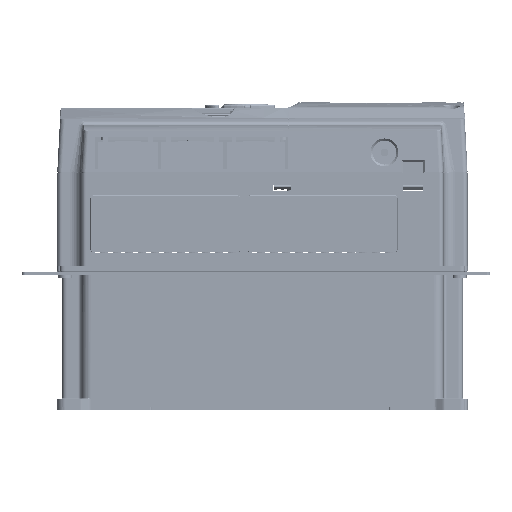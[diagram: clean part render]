
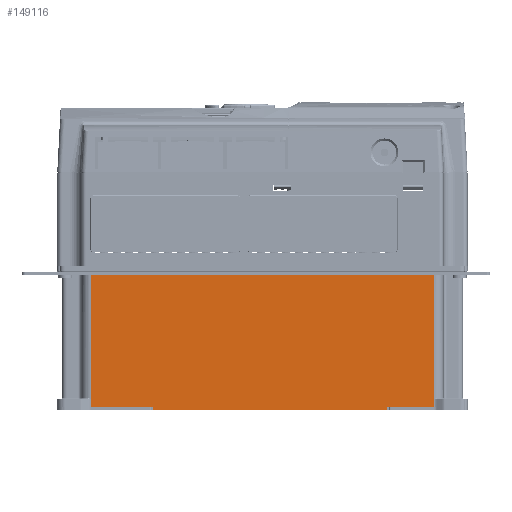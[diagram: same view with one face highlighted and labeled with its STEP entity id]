
A CAD part, left-side view. The second image highlights one B-rep face of the part: STEP entity #149116.
In plain terms, the highlighted planar face has unit normal (-1, 0, 0) as drawn and (1, 0, 0) by its records, which use the part's own axes.
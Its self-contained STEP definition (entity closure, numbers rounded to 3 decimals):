
#119046=DIRECTION('',(0.,0.,-1.));
#119047=VECTOR('',#119046,146.);
#119048=CARTESIAN_POINT('',(70.,-80.,68.));
#119049=LINE('',#119048,#119047);
#120293=CARTESIAN_POINT('',(70.,-73.,108.657));
#120295=DIRECTION('',(-0.001,0.,-1.));
#120296=VECTOR('',#120295,1.493);
#120297=CARTESIAN_POINT('',(70.,-73.,108.657));
#120298=LINE('',#120297,#120296);
#120306=DIRECTION('',(-0.001,0.,1.));
#120307=VECTOR('',#120306,1.493);
#120308=CARTESIAN_POINT('',(70.,-73.,-108.657));
#120309=LINE('',#120308,#120307);
#125391=DIRECTION('',(0.,0.,-1.));
#125392=VECTOR('',#125391,39.169);
#125393=CARTESIAN_POINT('',(70.,-78.5,107.169));
#125394=LINE('',#125393,#125392);
#125395=DIRECTION('',(0.,1.,0.));
#125396=VECTOR('',#125395,5.);
#125397=CARTESIAN_POINT('',(70.,-78.5,107.169));
#125398=LINE('',#125397,#125396);
#125399=CARTESIAN_POINT('',(70.,-73.405,
107.403));
#125400=CARTESIAN_POINT('',(70.,-73.373,
107.481));
#125401=CARTESIAN_POINT('',(70.,-73.298,
107.663));
#125402=CARTESIAN_POINT('',(70.,-73.201,
107.913));
#125403=CARTESIAN_POINT('',(70.,-73.116,
108.162));
#125404=CARTESIAN_POINT('',(70.,-73.046,
108.408));
#125405=CARTESIAN_POINT('',(70.,-73.013,108.574));
#125406=CARTESIAN_POINT('',(70.,-73.,108.657));
#125408=DIRECTION('',(0.,-1.,0.));
#125409=VECTOR('',#125408,79.);
#125410=CARTESIAN_POINT('',(70.,6.,107.));
#125411=LINE('',#125410,#125409);
#125412=DIRECTION('',(0.,0.,-1.));
#125413=VECTOR('',#125412,214.);
#125414=CARTESIAN_POINT('',(70.,6.,107.));
#125415=LINE('',#125414,#125413);
#125416=DIRECTION('',(0.,1.,0.));
#125417=VECTOR('',#125416,79.);
#125418=CARTESIAN_POINT('',(70.,-73.,-107.));
#125419=LINE('',#125418,#125417);
#125420=CARTESIAN_POINT('',(70.,-73.408,
-107.395));
#125421=CARTESIAN_POINT('',(70.,-73.366,
-107.478));
#125422=CARTESIAN_POINT('',(70.,-73.303,
-107.663));
#125423=CARTESIAN_POINT('',(70.,-73.183,
-107.953));
#125424=CARTESIAN_POINT('',(70.,-73.078,
-108.281));
#125425=CARTESIAN_POINT('',(70.,-73.02,-108.527));
#125426=CARTESIAN_POINT('',(70.,-73.,-108.657));
#125428=DIRECTION('',(0.,-1.,0.));
#125429=VECTOR('',#125428,5.);
#125430=CARTESIAN_POINT('',(70.,-73.5,-107.169));
#125431=LINE('',#125430,#125429);
#125432=DIRECTION('',(0.,0.,-1.));
#125433=VECTOR('',#125432,29.169);
#125434=CARTESIAN_POINT('',(70.,-78.5,-78.));
#125435=LINE('',#125434,#125433);
#125436=DIRECTION('',(0.,1.,0.));
#125437=VECTOR('',#125436,1.5);
#125438=CARTESIAN_POINT('',(70.,-80.,-78.));
#125439=LINE('',#125438,#125437);
#125440=DIRECTION('',(0.,1.,0.));
#125441=VECTOR('',#125440,1.5);
#125442=CARTESIAN_POINT('',(70.,-80.,68.));
#125443=LINE('',#125442,#125441);
#134613=CARTESIAN_POINT('',(70.,-73.,107.));
#134614=CARTESIAN_POINT('',(70.,-73.,107.028));
#134615=CARTESIAN_POINT('',(70.001,-73.,107.087));
#134616=CARTESIAN_POINT('',(69.999,-73.,107.136));
#134617=CARTESIAN_POINT('',(69.999,-73.,107.164));
#134650=CARTESIAN_POINT('',(70.,-73.405,
107.403));
#134662=CARTESIAN_POINT('',(70.,-73.405,
107.403));
#134663=CARTESIAN_POINT('',(70.,-73.422,
107.36));
#134664=CARTESIAN_POINT('',(70.,-73.447,
107.298));
#134665=CARTESIAN_POINT('',(70.,-73.484,107.209));
#134666=CARTESIAN_POINT('',(70.,-73.5,107.169));
#134762=CARTESIAN_POINT('',(69.999,-73.,-107.164));
#134763=CARTESIAN_POINT('',(69.999,-73.,-107.136));
#134764=CARTESIAN_POINT('',(70.001,-73.,-107.087));
#134765=CARTESIAN_POINT('',(70.,-73.,-107.028));
#134766=CARTESIAN_POINT('',(70.,-73.,-107.));
#134974=CARTESIAN_POINT('',(70.,-73.408,
-107.395));
#134981=CARTESIAN_POINT('',(70.,-73.5,-107.169));
#134982=CARTESIAN_POINT('',(70.,-73.484,-107.207));
#134983=CARTESIAN_POINT('',(70.,-73.453,
-107.283));
#134984=CARTESIAN_POINT('',(70.,-73.423,
-107.358));
#134985=CARTESIAN_POINT('',(70.,-73.408,
-107.395));
#137439=CARTESIAN_POINT('',(70.,-80.,68.));
#137441=VERTEX_POINT('',#137439);
#137455=CARTESIAN_POINT('',(70.,-80.,-78.));
#137457=VERTEX_POINT('',#137455);
#137466=CARTESIAN_POINT('',(70.,-78.5,107.169));
#137467=CARTESIAN_POINT('',(70.,-78.5,68.));
#137468=VERTEX_POINT('',#137466);
#137469=VERTEX_POINT('',#137467);
#137470=CARTESIAN_POINT('',(70.,-78.5,-78.));
#137471=CARTESIAN_POINT('',(70.,-78.5,-107.169));
#137472=VERTEX_POINT('',#137470);
#137473=VERTEX_POINT('',#137471);
#137878=CARTESIAN_POINT('',(70.,6.,107.));
#137879=CARTESIAN_POINT('',(70.,-73.,107.));
#137880=VERTEX_POINT('',#137878);
#137881=VERTEX_POINT('',#137879);
#137882=CARTESIAN_POINT('',(70.,-73.,-107.));
#137883=CARTESIAN_POINT('',(70.,6.,-107.));
#137884=VERTEX_POINT('',#137882);
#137885=VERTEX_POINT('',#137883);
#137963=CARTESIAN_POINT('',(70.,-73.5,-107.169));
#137965=VERTEX_POINT('',#137963);
#138088=CARTESIAN_POINT('',(70.,-73.5,107.169));
#138089=VERTEX_POINT('',#138088);
#138092=VERTEX_POINT('',#134617);
#138093=VERTEX_POINT('',#134762);
#138160=VERTEX_POINT('',#120293);
#138161=VERTEX_POINT('',#134650);
#138163=VERTEX_POINT('',#134974);
#138164=VERTEX_POINT('',#125426);
#149081=CARTESIAN_POINT('',(70.,-80.,125.));
#149082=DIRECTION('',(1.,0.,0.));
#149083=DIRECTION('',(0.,0.,-1.));
#149084=AXIS2_PLACEMENT_3D('',#149081,#149082,#149083);
#149085=PLANE('',#149084);
#149086=ORIENTED_EDGE('',*,*,#141826,.F.);
#149088=ORIENTED_EDGE('',*,*,#149087,.T.);
#149090=ORIENTED_EDGE('',*,*,#149089,.F.);
#149092=ORIENTED_EDGE('',*,*,#149091,.T.);
#149093=ORIENTED_EDGE('',*,*,#143248,.T.);
#149095=ORIENTED_EDGE('',*,*,#149094,.F.);
#149097=ORIENTED_EDGE('',*,*,#149096,.F.);
#149098=ORIENTED_EDGE('',*,*,#143559,.T.);
#149100=ORIENTED_EDGE('',*,*,#149099,.F.);
#149102=ORIENTED_EDGE('',*,*,#149101,.F.);
#149103=ORIENTED_EDGE('',*,*,#143260,.F.);
#149105=ORIENTED_EDGE('',*,*,#149104,.F.);
#149107=ORIENTED_EDGE('',*,*,#149106,.F.);
#149108=ORIENTED_EDGE('',*,*,#149073,.T.);
#149109=ORIENTED_EDGE('',*,*,#141605,.F.);
#149111=ORIENTED_EDGE('',*,*,#149110,.F.);
#149112=ORIENTED_EDGE('',*,*,#141375,.F.);
#149113=ORIENTED_EDGE('',*,*,#141527,.T.);
#149114=EDGE_LOOP('',(#149086,#149088,#149090,#149092,#149093,#149095,#149097,
#149098,#149100,#149102,#149103,#149105,#149107,#149108,#149109,#149111,#149112,
#149113));
#149115=FACE_OUTER_BOUND('',#149114,.F.);
#125407=B_SPLINE_CURVE_WITH_KNOTS('',3,(#125399,#125400,#125401,#125402,#125403,
#125404,#125405,#125406),.UNSPECIFIED.,.F.,.F.,(4,1,1,1,1,4),(0.,0.2,0.4,
0.6,0.8,1.),.UNSPECIFIED.);
#125427=B_SPLINE_CURVE_WITH_KNOTS('',3,(#125420,#125421,#125422,#125423,#125424,
#125425,#125426),.UNSPECIFIED.,.F.,.F.,(4,1,1,1,4),(0.,0.25,0.5,0.75,
1.),.UNSPECIFIED.);
#134618=B_SPLINE_CURVE_WITH_KNOTS('',3,(#134613,#134614,#134615,#134616,
#134617),.UNSPECIFIED.,.F.,.F.,(4,1,4),(0.,0.5,1.),.UNSPECIFIED.);
#134667=B_SPLINE_CURVE_WITH_KNOTS('',3,(#134662,#134663,#134664,#134665,
#134666),.UNSPECIFIED.,.F.,.F.,(4,1,4),(0.,0.5,1.),.UNSPECIFIED.);
#134767=B_SPLINE_CURVE_WITH_KNOTS('',3,(#134762,#134763,#134764,#134765,
#134766),.UNSPECIFIED.,.F.,.F.,(4,1,4),(0.,0.5,1.),.UNSPECIFIED.);
#134986=B_SPLINE_CURVE_WITH_KNOTS('',3,(#134981,#134982,#134983,#134984,
#134985),.UNSPECIFIED.,.F.,.F.,(4,1,4),(0.,0.5,1.),.UNSPECIFIED.);
#141375=EDGE_CURVE('',#137441,#137457,#119049,.T.);
#141527=EDGE_CURVE('',#137441,#137469,#125443,.T.);
#141605=EDGE_CURVE('',#137472,#137473,#125435,.T.);
#141826=EDGE_CURVE('',#137468,#137469,#125394,.T.);
#143248=EDGE_CURVE('',#138160,#138092,#120298,.T.);
#143260=EDGE_CURVE('',#138164,#138093,#120309,.T.);
#143559=EDGE_CURVE('',#137880,#137885,#125415,.T.);
#149073=EDGE_CURVE('',#137965,#137473,#125431,.T.);
#149087=EDGE_CURVE('',#137468,#138089,#125398,.T.);
#149089=EDGE_CURVE('',#138161,#138089,#134667,.T.);
#149091=EDGE_CURVE('',#138161,#138160,#125407,.T.);
#149094=EDGE_CURVE('',#137881,#138092,#134618,.T.);
#149096=EDGE_CURVE('',#137880,#137881,#125411,.T.);
#149099=EDGE_CURVE('',#137884,#137885,#125419,.T.);
#149101=EDGE_CURVE('',#138093,#137884,#134767,.T.);
#149104=EDGE_CURVE('',#138163,#138164,#125427,.T.);
#149106=EDGE_CURVE('',#137965,#138163,#134986,.T.);
#149110=EDGE_CURVE('',#137457,#137472,#125439,.T.);
#149116=ADVANCED_FACE('',(#149115),#149085,.T.);
